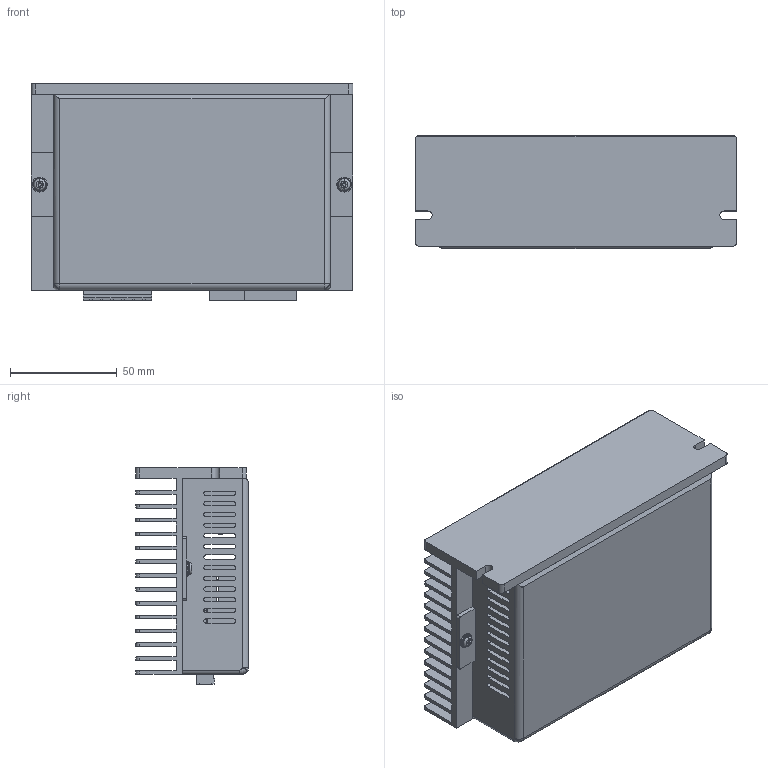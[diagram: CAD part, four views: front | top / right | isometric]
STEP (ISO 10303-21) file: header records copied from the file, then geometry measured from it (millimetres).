
FILE_DESCRIPTION((''),'2;1');
FILE_NAME('CL86C_ASM_38_ASM','2020-09-18T',('sunjun'),(''),'PRO/ENGINEER BY PARAMETRIC TECHNOLOGY CORPORATION, 2008090','PRO/ENGINEER BY PARAMETRIC TECHNOLOGY CORPORATION, 2008090','');
FILE_SCHEMA(('CONFIG_CONTROL_DESIGN'));
Products named in the file (16): 232323_2; M3_1; MANIFOLD_SOLID_BREP_12097; MANIFOLD_SOLID_BREP_12186; MANIFOLD_SOLID_BREP_12275; PCB1_6_ASM; CONNECTOR_5MMCLOSED6PIN_MALE_2; DIP_SWITCH_10PIN_VIC2_3; CONNECTOR_3_81MMCLOSED4PIN_MALE; CONNECTOR_3_81MM6PIN_MALE_2; LED_GREEN_RED_2; MSK_05_G2_1; HEADER_2_0_4X_1; PCB2_ASM_3_ASM; GZ_MA860CV30_191205_3; CL86C_ASM_38_ASM
Assembly tree (16 placements, depth 4):
  CL86C_ASM_38_ASM
    232323_2
    M3_1  x2
    PCB2_ASM_3_ASM
      PCB1_6_ASM
        MANIFOLD_SOLID_BREP_12097
        MANIFOLD_SOLID_BREP_12186
        MANIFOLD_SOLID_BREP_12275
      CONNECTOR_5MMCLOSED6PIN_MALE_2
      DIP_SWITCH_10PIN_VIC2_3
      CONNECTOR_3_81MMCLOSED4PIN_MALE
      CONNECTOR_3_81MM6PIN_MALE_2
      LED_GREEN_RED_2
      MSK_05_G2_1
      HEADER_2_0_4X_1
    GZ_MA860CV30_191205_3
Bounding box: 151 x 53 x 101.75 mm (x, y, z)
Volume: 242200.8 mm3; surface area: 192903.6 mm2
Topology: 14 solids, 14 shells, 1726 faces, 4634 edges, 3008 vertices
Faces by surface type: plane 1383, cylinder 293, cone 22, torus 16, bspline 6, sphere 6
Entity records: 54862 total; most frequent: CARTESIAN_POINT 13162, ORIENTED_EDGE 8820, DIRECTION 8094, EDGE_CURVE 4410, VECTOR 3754, LINE 3754, VERTEX_POINT 2856, AXIS2_PLACEMENT_3D 2170
